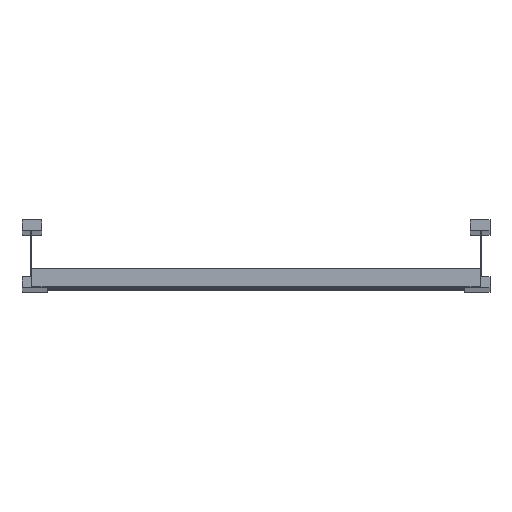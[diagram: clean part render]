
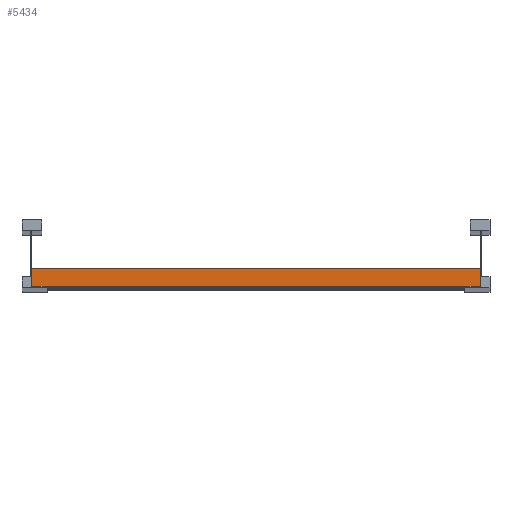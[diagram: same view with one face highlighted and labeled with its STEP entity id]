
A CAD part, top view. The second image highlights one B-rep face of the part: STEP entity #5434.
In plain terms, the highlighted planar face has unit normal (0, 0, 1).
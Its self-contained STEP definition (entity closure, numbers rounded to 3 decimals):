
#423 = DIRECTION ( 'NONE',  ( 0., -1., 0. ) ) ;
#796 = VERTEX_POINT ( 'NONE', #3018 ) ;
#875 = VERTEX_POINT ( 'NONE', #1981 ) ;
#942 = EDGE_CURVE ( 'NONE', #796, #3683, #2909, .T. ) ;
#1008 = LINE ( 'NONE', #5800, #5567 ) ;
#1116 = ORIENTED_EDGE ( 'NONE', *, *, #4555, .F. ) ;
#1403 = LINE ( 'NONE', #2330, #4071 ) ;
#1445 = CARTESIAN_POINT ( 'NONE',  ( -248.5, 0., 20.25 ) ) ;
#1484 = VECTOR ( 'NONE', #4372, 1000. ) ;
#1591 = CARTESIAN_POINT ( 'NONE',  ( 248.5, 20., 20.25 ) ) ;
#1657 = EDGE_CURVE ( 'NONE', #2903, #875, #1958, .T. ) ;
#1726 = EDGE_CURVE ( 'NONE', #2903, #796, #1008, .T. ) ;
#1958 = LINE ( 'NONE', #1591, #1484 ) ;
#1981 = CARTESIAN_POINT ( 'NONE',  ( 248.5, 0., 20.25 ) ) ;
#2330 = CARTESIAN_POINT ( 'NONE',  ( 248.5, 0., 20.25 ) ) ;
#2683 = PLANE ( 'NONE',  #3466 ) ;
#2903 = VERTEX_POINT ( 'NONE', #5994 ) ;
#2909 = LINE ( 'NONE', #5820, #4468 ) ;
#2920 = DIRECTION ( 'NONE',  ( -1., 0., 0. ) ) ;
#3018 = CARTESIAN_POINT ( 'NONE',  ( -248.5, 20., 20.25 ) ) ;
#3270 = DIRECTION ( 'NONE',  ( 0., 0., -1. ) ) ;
#3466 = AXIS2_PLACEMENT_3D ( 'NONE', #3643, #3270, #3799 ) ;
#3643 = CARTESIAN_POINT ( 'NONE',  ( 248.5, 20., 20.25 ) ) ;
#3683 = VERTEX_POINT ( 'NONE', #1445 ) ;
#3799 = DIRECTION ( 'NONE',  ( 0., 1., 0. ) ) ;
#4071 = VECTOR ( 'NONE', #5243, 1000. ) ;
#4155 = ORIENTED_EDGE ( 'NONE', *, *, #1657, .F. ) ;
#4372 = DIRECTION ( 'NONE',  ( 0., -1., 0. ) ) ;
#4468 = VECTOR ( 'NONE', #423, 1000. ) ;
#4555 = EDGE_CURVE ( 'NONE', #875, #3683, #1403, .T. ) ;
#4691 = FACE_OUTER_BOUND ( 'NONE', #5974, .T. ) ;
#4695 = ORIENTED_EDGE ( 'NONE', *, *, #1726, .T. ) ;
#5243 = DIRECTION ( 'NONE',  ( -1., 0., 0. ) ) ;
#5434 = ADVANCED_FACE ( 'NONE', ( #4691 ), #2683, .F. ) ;
#5567 = VECTOR ( 'NONE', #2920, 1000. ) ;
#5610 = ORIENTED_EDGE ( 'NONE', *, *, #942, .T. ) ;
#5800 = CARTESIAN_POINT ( 'NONE',  ( 248.5, 20., 20.25 ) ) ;
#5820 = CARTESIAN_POINT ( 'NONE',  ( -248.5, 20., 20.25 ) ) ;
#5974 = EDGE_LOOP ( 'NONE', ( #5610, #1116, #4155, #4695 ) ) ;
#5994 = CARTESIAN_POINT ( 'NONE',  ( 248.5, 20., 20.25 ) ) ;
